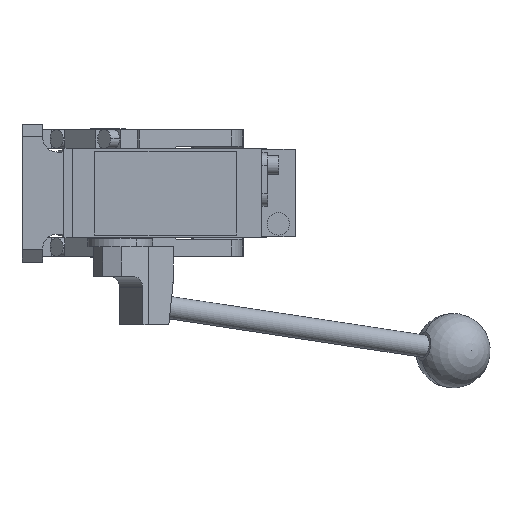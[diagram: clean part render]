
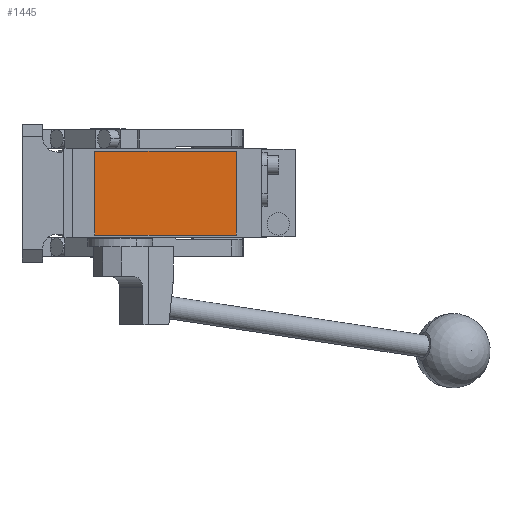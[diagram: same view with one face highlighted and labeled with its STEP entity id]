
A CAD part, front view. The second image highlights one B-rep face of the part: STEP entity #1445.
In plain terms, the highlighted planar face has unit normal (0, -1, 0).
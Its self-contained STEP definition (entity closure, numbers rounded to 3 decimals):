
#94 = VECTOR ( 'NONE', #13865, 1000. ) ;
#1206 = CARTESIAN_POINT ( 'NONE',  ( -7., -280.5, -22.5 ) ) ;
#1445 = ADVANCED_FACE ( 'NONE', ( #2180 ), #13465, .T. ) ;
#1610 = DIRECTION ( 'NONE',  ( 0., 0., -1. ) ) ;
#1704 = CARTESIAN_POINT ( 'NONE',  ( 69., -280.5, 22.5 ) ) ;
#2180 = FACE_OUTER_BOUND ( 'NONE', #12385, .T. ) ;
#2265 = CARTESIAN_POINT ( 'NONE',  ( 0., -280.5, 0. ) ) ;
#2800 = CARTESIAN_POINT ( 'NONE',  ( -7., -280.5, 22.5 ) ) ;
#3447 = EDGE_CURVE ( 'NONE', #8459, #13355, #8859, .T. ) ;
#3699 = AXIS2_PLACEMENT_3D ( 'NONE', #2265, #7466, #11572 ) ;
#4289 = VECTOR ( 'NONE', #1610, 1000. ) ;
#4672 = CARTESIAN_POINT ( 'NONE',  ( 69., -280.5, 22.5 ) ) ;
#5388 = EDGE_CURVE ( 'NONE', #8381, #14129, #7637, .T. ) ;
#6832 = CARTESIAN_POINT ( 'NONE',  ( 69., -280.5, -22.5 ) ) ;
#7000 = EDGE_CURVE ( 'NONE', #14129, #8459, #14012, .T. ) ;
#7268 = VECTOR ( 'NONE', #8545, 1000. ) ;
#7382 = CARTESIAN_POINT ( 'NONE',  ( -7., -280.5, -22.5 ) ) ;
#7466 = DIRECTION ( 'NONE',  ( 0., -1., 0. ) ) ;
#7637 = LINE ( 'NONE', #1704, #14118 ) ;
#8381 = VERTEX_POINT ( 'NONE', #6832 ) ;
#8459 = VERTEX_POINT ( 'NONE', #11987 ) ;
#8545 = DIRECTION ( 'NONE',  ( 1., 0., 0. ) ) ;
#8859 = LINE ( 'NONE', #11380, #4289 ) ;
#9206 = ORIENTED_EDGE ( 'NONE', *, *, #13332, .T. ) ;
#10100 = DIRECTION ( 'NONE',  ( 0., 0., 1. ) ) ;
#10731 = ORIENTED_EDGE ( 'NONE', *, *, #5388, .T. ) ;
#11063 = LINE ( 'NONE', #7382, #7268 ) ;
#11357 = ORIENTED_EDGE ( 'NONE', *, *, #7000, .T. ) ;
#11380 = CARTESIAN_POINT ( 'NONE',  ( -7., -280.5, 22.5 ) ) ;
#11572 = DIRECTION ( 'NONE',  ( 0., 0., -1. ) ) ;
#11987 = CARTESIAN_POINT ( 'NONE',  ( -7., -280.5, 22.5 ) ) ;
#12385 = EDGE_LOOP ( 'NONE', ( #15193, #9206, #10731, #11357 ) ) ;
#13332 = EDGE_CURVE ( 'NONE', #13355, #8381, #11063, .T. ) ;
#13355 = VERTEX_POINT ( 'NONE', #1206 ) ;
#13465 = PLANE ( 'NONE',  #3699 ) ;
#13865 = DIRECTION ( 'NONE',  ( -1., 0., 0. ) ) ;
#14012 = LINE ( 'NONE', #2800, #94 ) ;
#14118 = VECTOR ( 'NONE', #10100, 1000. ) ;
#14129 = VERTEX_POINT ( 'NONE', #4672 ) ;
#15193 = ORIENTED_EDGE ( 'NONE', *, *, #3447, .T. ) ;
